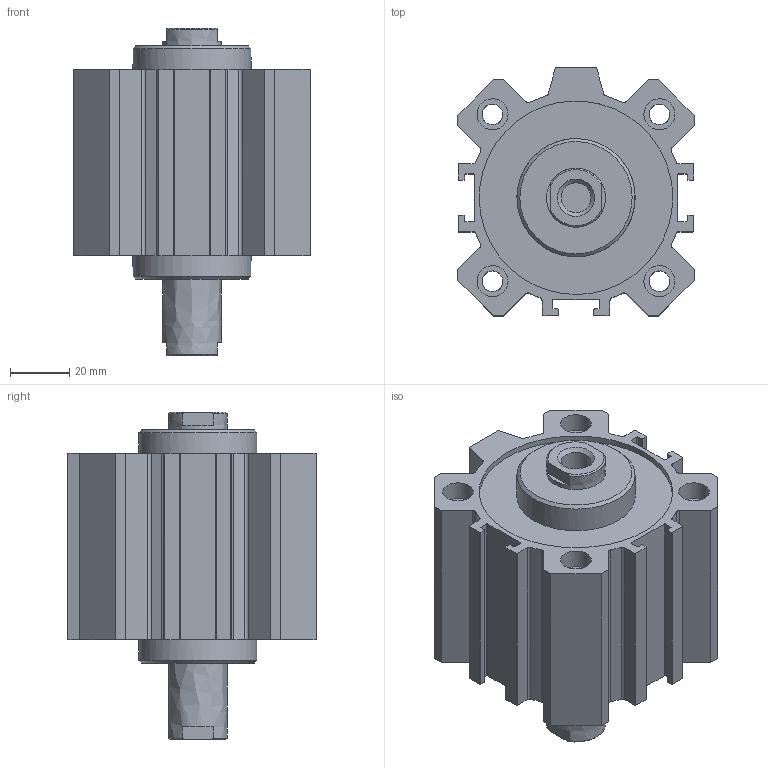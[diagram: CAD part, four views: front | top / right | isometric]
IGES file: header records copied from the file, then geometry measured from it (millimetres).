
Global section: file name: 1514_63_0020; native system: Autodesk Inventor 2014; preprocessor: unknown; author: A. Manieri; date: 20160824.140232; units: millimetre
Bounding box: 80 x 84 x 111 mm (x, y, z)
Volume: 286912.7 mm3; surface area: 77227.7 mm2
Topology: 2 solids, 2 shells, 178 faces, 482 edges, 328 vertices
Faces by surface type: bspline 178
